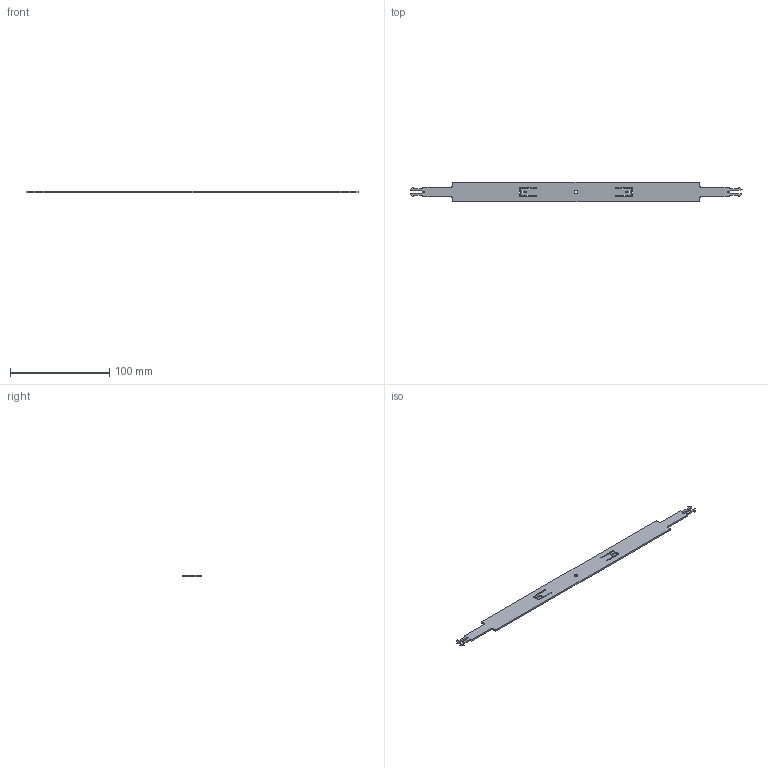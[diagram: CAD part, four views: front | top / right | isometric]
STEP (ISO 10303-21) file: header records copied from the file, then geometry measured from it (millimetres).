
FILE_DESCRIPTION(/* description */ (''),/* implementation_level */ '2;1');
FILE_NAME(/* name */ 'F:/Phasespacce 2019/VR Rift/Face Shield Poly/Production/Face Shiel Parts final/Apr 03 Front bend with End Clip v10.step',/* time_stamp */ '2020-04-03T13:02:55-07:00',/* author */ (''),/* organization */ (''),/* preprocessor_version */ 'ST-DEVELOPER v18',/* originating_system */ 'Autodesk Translation Framework v8.12.0.6',/* authorisation */ '');
FILE_SCHEMA (('AUTOMOTIVE_DESIGN { 1 0 10303 214 3 1 1 }'));
Length unit declared in the file: millimetre
Products named in the file (1): Apr 03 Front bend with End Clip
Bounding box: 334 x 20 x 1.7 mm (x, y, z)
Volume: 9448.4 mm3; surface area: 12760.8 mm2
Topology: 1 solids, 1 shells, 121 faces, 357 edges, 238 vertices
Faces by surface type: plane 82, cylinder 39
Full cylindrical faces by diameter (mm): 4 x1
Entity records: 4074 total; most frequent: CARTESIAN_POINT 717, ORIENTED_EDGE 714, DIRECTION 679, EDGE_CURVE 357, LINE 279, VECTOR 279, VERTEX_POINT 238, AXIS2_PLACEMENT_3D 200
